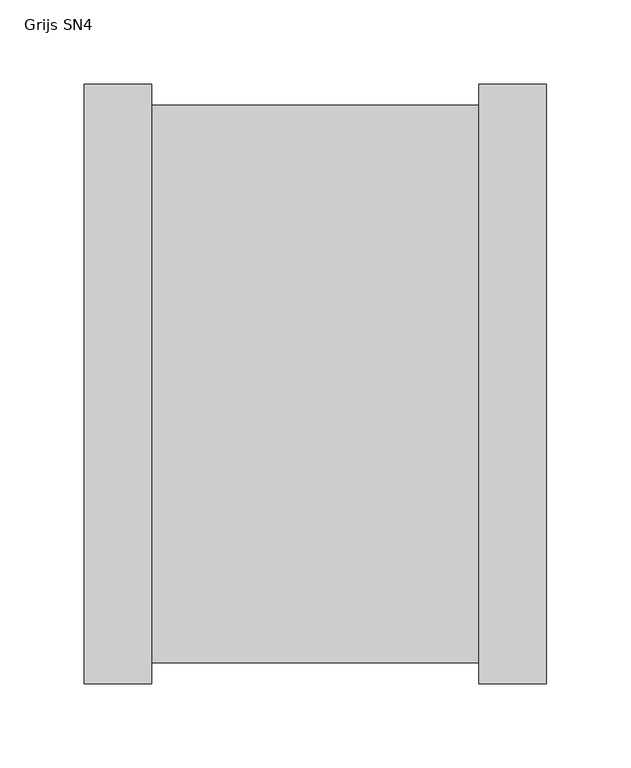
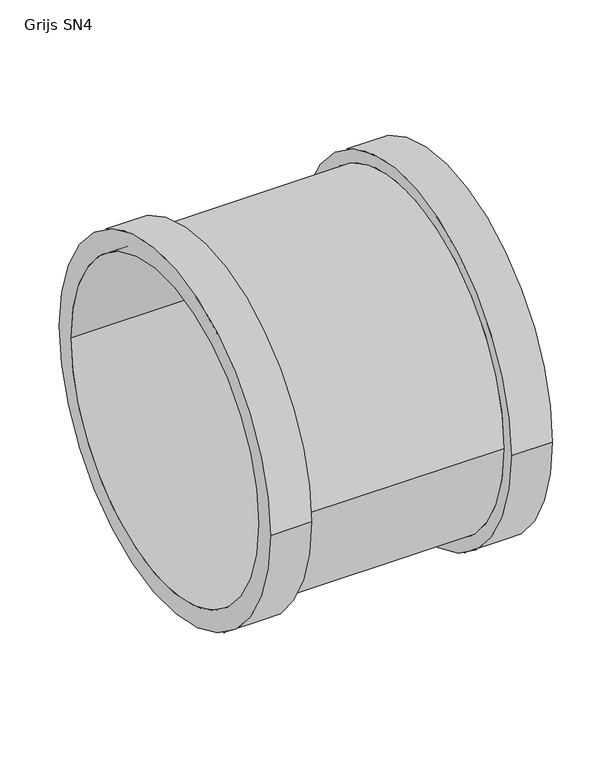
"""IFC4 building model written with IfcOpenShell, lengths in millimetres: pipe fitting geometry, NLRS_52_PIF_UN_SN4 SN8 steekmof 2MV_Dyka : Grijs SN4."""

import ifcopenshell
import ifcopenshell.guid

model = None  # the IFC model being written
_history = None  # IfcOwnerHistory: only IFC2X3 demands one
_inside = {}  # id of a spatial element -> (the spatial element, [elements in it])
_under = {}  # id of a project, library or spatial element -> (it, [spatial elements below it])
_declared = {}  # id of a project -> (the project, [libraries it declares])
_typed = {}  # id of a type object -> (the type object, [elements of that type])
_made_of = {}  # id of a material, layer set ... -> (it, [elements and type objects made of it])


def new_model(schema):
    """Start an empty IFC model of exactly this schema.

    Asked for "IFC4X3", IfcOpenShell would pick the latest addendum, in which some entities
    have other attributes; the version numbers below select the first issue.
    IFC2X3 requires an IfcOwnerHistory on every rooted entity: one is made here for all.
    """
    global model, _history
    if schema == "IFC4X3":
        model = ifcopenshell.file(schema_version=(4, 3, 0, 0))
    else:
        model = ifcopenshell.file(schema=schema)
    _inside.clear()
    _under.clear()
    _declared.clear()
    _typed.clear()
    _made_of.clear()
    _history = None
    if model.schema == "IFC2X3":
        org = make("IfcOrganization", Name="unknown")
        user = make(
            "IfcPersonAndOrganization",
            ThePerson=make("IfcPerson", FamilyName="unknown"),
            TheOrganization=org,
        )
        app = make(
            "IfcApplication",
            ApplicationDeveloper=org,
            Version="unknown",
            ApplicationFullName="unknown",
            ApplicationIdentifier="unknown",
        )
        _history = make(
            "IfcOwnerHistory",
            OwningUser=user,
            OwningApplication=app,
            ChangeAction="ADDED",
            CreationDate=0,
        )
    return model


def make(cls, **values):
    """One entity of the class cls with the attributes given. An attribute that is None is left unset."""
    return model.create_entity(
        cls, **{name: value for name, value in values.items() if value is not None}
    )


def rooted(cls, **values):
    """An entity with a GlobalId (a new one), such as an element, a storey or a relation."""
    return make(cls, GlobalId=ifcopenshell.guid.new(), OwnerHistory=_history, **values)


def si_unit(unit_type, name, prefix=None):
    """IfcSIUnit, for example si_unit("LENGTHUNIT", "METRE", prefix="MILLI")."""
    return make("IfcSIUnit", UnitType=unit_type, Prefix=prefix, Name=name)


def assignment(units):
    """IfcUnitAssignment: the units of a project."""
    return None if units is None else make("IfcUnitAssignment", Units=units)


def point(xyz):
    """IfcCartesianPoint."""
    return None if xyz is None else make("IfcCartesianPoint", Coordinates=xyz)


def direction(xyz):
    """IfcDirection."""
    return None if xyz is None else make("IfcDirection", DirectionRatios=xyz)


def frame(location, z_axis=None, x_axis=None):
    """IfcAxis2Placement3D, a coordinate frame: its origin and axes. An axis left out is left unset."""
    return make(
        "IfcAxis2Placement3D",
        Location=point(location),
        Axis=direction(z_axis),
        RefDirection=direction(x_axis),
    )


def origin():
    """The frame at (0, 0, 0) with its axes left unset."""
    return frame((0.0, 0.0, 0.0))


def place(relative_to, where):
    """IfcLocalPlacement: puts the frame where relative to a parent placement (None: the world)."""
    return make(
        "IfcLocalPlacement", PlacementRelTo=relative_to, RelativePlacement=where
    )


def context(
    kind, dimensions, precision=None, world=None, true_north=None, identifier=None
):
    """IfcGeometricRepresentationContext, for example the 3D "Model" context."""
    return make(
        "IfcGeometricRepresentationContext",
        ContextIdentifier=identifier,
        ContextType=kind,
        CoordinateSpaceDimension=dimensions,
        Precision=precision,
        WorldCoordinateSystem=world,
        TrueNorth=true_north,
    )


def project(units=None, contexts=None):
    """IfcProject with its units and contexts."""
    return rooted(
        "IfcProject",
        Name="project",
        RepresentationContexts=contexts,
        UnitsInContext=assignment(units),
    )


def spatial(cls, under=None, at=None, **own):
    """A site, building, storey or space (cls), placed at a placement, below another one or the project."""
    s = rooted(cls, ObjectPlacement=at, **own)
    if under is not None:
        _under.setdefault(under.id(), (under, []))[1].append(s)
    return s


def polyline(points):
    """IfcPolyline through the points."""
    return make("IfcPolyline", Points=[point(p) for p in points])


def circle_curve(where, radius):
    """IfcCircle in the frame where."""
    return make("IfcCircle", Position=where, Radius=radius)


def shape(context_of_items, identifier, shape_type, items):
    """IfcShapeRepresentation: the items that make up one representation, for example the "Body"."""
    return make(
        "IfcShapeRepresentation",
        ContextOfItems=context_of_items,
        RepresentationIdentifier=identifier,
        RepresentationType=shape_type,
        Items=items,
    )


def source(mapping_origin, context_of_items, identifier, shape_type, items):
    """IfcRepresentationMap: a shape defined once, which mapped items show again and again."""
    return make(
        "IfcRepresentationMap",
        MappingOrigin=mapping_origin,
        MappedRepresentation=shape(context_of_items, identifier, shape_type, items),
    )


def transform(
    local_origin,
    x_axis=None,
    y_axis=None,
    z_axis=None,
    scale=None,
    scale2=None,
    scale3=None,
    uniform=True,
):
    """IfcCartesianTransformationOperator3D, or its non-uniform kind. x_axis, y_axis, z_axis: its Axis1, 2, 3."""
    if uniform:
        return make(
            "IfcCartesianTransformationOperator3D",
            Axis1=direction(x_axis),
            Axis2=direction(y_axis),
            LocalOrigin=point(local_origin),
            Scale=scale,
            Axis3=direction(z_axis),
        )
    return make(
        "IfcCartesianTransformationOperator3DnonUniform",
        Axis1=direction(x_axis),
        Axis2=direction(y_axis),
        LocalOrigin=point(local_origin),
        Scale=scale,
        Axis3=direction(z_axis),
        Scale2=scale2,
        Scale3=scale3,
    )


def mapped(mapping_source, mapping_target):
    """IfcMappedItem: shows the shape of a source again, moved by a transform."""
    return make(
        "IfcMappedItem", MappingSource=mapping_source, MappingTarget=mapping_target
    )


def made_of(thing, what):
    """Note that an element or type object is made of a material, layer set ...; save() writes the relation."""
    if what is not None:
        _made_of.setdefault(what.id(), (what, []))[1].append(thing)
    return thing


def element(
    cls,
    number,
    at=None,
    inside=None,
    cuts=None,
    type_object=None,
    material=None,
    context=None,
    identifier="Body",
    shape_type=None,
    held_by="IfcProductDefinitionShape",
    body=None,
    shapes=None,
    **own,
):
    """One element of the class cls, such as IfcWall. Its Tag is "e" and its number.

    at: its placement. inside: the storey or other place that contains it. cuts: it is an
    opening in that element (IfcRelVoidsElement). A single representation is given by context,
    identifier, shape_type and body (its items); several are given by shapes. held_by: the class
    of the entity that holds the representations. save() writes the other relations.
    """
    e = rooted(cls, Tag="e%d" % number, ObjectPlacement=at, **own)
    if body is not None:
        shapes = [shape(context, identifier, shape_type, body)]
    if shapes is not None:
        e.Representation = make(held_by, Representations=shapes)
    if inside is not None:
        _inside.setdefault(inside.id(), (inside, []))[1].append(e)
    if cuts is not None:
        rooted(
            "IfcRelVoidsElement", RelatingBuildingElement=cuts, RelatedOpeningElement=e
        )
    if type_object is not None:
        _typed.setdefault(type_object.id(), (type_object, []))[1].append(e)
    return made_of(e, material)


def aggregate(whole, parts):
    """IfcRelAggregates: a whole, such as a stair, and the parts it consists of."""
    return rooted("IfcRelAggregates", RelatingObject=whole, RelatedObjects=parts)


def save(model, path):
    """Write the relations noted so far, then the file.

    IfcRelAggregates (storeys below a building ...), IfcRelContainedInSpatialStructure (elements
    in a storey), IfcRelDefinesByType, IfcRelAssociatesMaterial and IfcRelDeclares: one each for
    every whole, place, type object, material and project.
    """
    for whole, parts in _under.values():
        aggregate(whole, parts)
    for where, things in _inside.values():
        rooted(
            "IfcRelContainedInSpatialStructure",
            RelatedElements=things,
            RelatingStructure=where,
        )
    for kind, things in _typed.values():
        rooted("IfcRelDefinesByType", RelatedObjects=things, RelatingType=kind)
    for what, things in _made_of.values():
        rooted("IfcRelAssociatesMaterial", RelatedObjects=things, RelatingMaterial=what)
    for by, libraries in _declared.values():
        rooted("IfcRelDeclares", RelatingContext=by, RelatedDefinitions=libraries)
    model.write(path)


def plane_surface(at):
    """IfcPlane: the flat surface through the origin of the frame at, square to its z axis."""
    return make("IfcPlane", Position=at)


def cylinder_surface(at, radius):
    """IfcCylindricalSurface: all points at the distance radius from the z axis of the frame at."""
    return make("IfcCylindricalSurface", Position=at, Radius=radius)


def revolved_surface(curve, axis_point, axis_direction):
    """IfcSurfaceOfRevolution: the curve turned about the line through axis_point along axis_direction."""
    return make(
        "IfcSurfaceOfRevolution",
        SweptCurve=make("IfcArbitraryOpenProfileDef", ProfileType="CURVE", Curve=curve),
        AxisPosition=make("IfcAxis1Placement", Location=point(axis_point), Axis=direction(axis_direction)),
    )


def advanced_brep(points, edges, surfaces, faces):
    """IfcAdvancedBrep: a solid bounded by faces that lie on surfaces and meet in shared edges.

    An edge is (start, end): straight between two places in points (the first is 0);
    or (start, end, curve); or (start, end, curve, False) where it runs against its curve.
    A face is (place in surfaces, loops), or (place, loops, False) where it looks against
    its surface's normal. A loop lists edges by number (the first is 1), with a minus sign
    where the edge is run from its end to its start. The first loop is the outer one.
    """
    corners = [point(p) for p in points]
    vertices = [make("IfcVertexPoint", VertexGeometry=c) for c in corners]
    made = []
    for start, end, *more in edges:
        made.append(
            make(
                "IfcEdgeCurve",
                EdgeStart=vertices[start],
                EdgeEnd=vertices[end],
                EdgeGeometry=more[0] if more else make("IfcPolyline", Points=[corners[start], corners[end]]),
                SameSense=more[1] if len(more) > 1 else True,
            )
        )
    hull = []
    for where, loops, *sense in faces:
        bounds = []
        for j, loop in enumerate(loops):
            ring = [make("IfcOrientedEdge", EdgeElement=made[abs(k) - 1], Orientation=k > 0) for k in loop]
            bounds.append(
                make(
                    "IfcFaceOuterBound" if j == 0 else "IfcFaceBound",
                    Bound=make("IfcEdgeLoop", EdgeList=ring),
                    Orientation=True,
                )
            )
        hull.append(make("IfcAdvancedFace", Bounds=bounds, FaceSurface=surfaces[where], SameSense=sense[0] if sense else True))
    return make("IfcAdvancedBrep", Outer=make("IfcClosedShell", CfsFaces=hull))


def grijs_sn4_e6528fc4(model_context):
    return source(origin(), model_context, "Body", "AdvancedBrep", [
        advanced_brep(
        [(97.0, -177.5, 0.0), (97.0, 177.5, 0.0), (97.0, -165.2, 0.0), (97.0, 165.2, 0.0), (137.0, -177.5, 0.0), (137.0, 177.5, 0.0), (137.0, -157.5, 0.0), (137.0, 157.5, 0.0), (97.0, -157.5, 0.0), (97.0, 157.5, 0.0), (-137.0, -177.5, 0.0), (-137.0, 177.5, 0.0), (-137.0, -157.5, 0.0), (-137.0, 157.5, 0.0), (-97.0, 157.5, 0.0), (-97.0, -157.5, 0.0), (-97.0, -165.2, 0.0), (-97.0, 165.2, 0.0), (-97.0, -177.5, 0.0), (-97.0, 177.5, 0.0)],
        [
            (0, 1, circle_curve(frame((97.0, 0.0, 0.0), z_axis=(-1.0, 0.0, 0.0), x_axis=(0.0, 1.0, 0.0)), 177.5)),
            (1, 0, circle_curve(frame((97.0, 0.0, 0.0), z_axis=(-1.0, 0.0, 0.0), x_axis=(0.0, 1.0, 0.0)), 177.5)),
            (2, 3, circle_curve(frame((97.0, 0.0, 0.0), z_axis=(1.0, 0.0, 0.0), x_axis=(0.0, 1.0, 0.0)), 165.2)),
            (3, 2, circle_curve(frame((97.0, 0.0, 0.0), z_axis=(1.0, 0.0, 0.0), x_axis=(0.0, 1.0, 0.0)), 165.2)),
            (4, 5, circle_curve(frame((137.0, 0.0, 0.0), z_axis=(1.0, 0.0, 0.0), x_axis=(0.0, 1.0, 0.0)), 177.5)),
            (5, 4, circle_curve(frame((137.0, 0.0, 0.0), z_axis=(1.0, 0.0, 0.0), x_axis=(0.0, 1.0, 0.0)), 177.5)),
            (6, 7, circle_curve(frame((137.0, 0.0, 0.0), z_axis=(-1.0, 0.0, 0.0), x_axis=(0.0, 1.0, 0.0)), 157.5)),
            (7, 6, circle_curve(frame((137.0, 0.0, 0.0), z_axis=(-1.0, 0.0, 0.0), x_axis=(0.0, 1.0, 0.0)), 157.5)),
            (6, 8),
            (8, 9, circle_curve(frame((97.0, 0.0, 0.0), z_axis=(-1.0, 0.0, 0.0), x_axis=(0.0, 1.0, 0.0)), 157.5)),
            (9, 7),
            (9, 8, circle_curve(frame((97.0, 0.0, 0.0), z_axis=(-1.0, 0.0, 0.0), x_axis=(0.0, 1.0, 0.0)), 157.5)),
            (1, 5),
            (4, 0),
            (10, 11, circle_curve(frame((-137.0, 0.0, 0.0), z_axis=(-1.0, 0.0, 0.0), x_axis=(0.0, 1.0, 0.0)), 177.5)),
            (11, 10, circle_curve(frame((-137.0, 0.0, 0.0), z_axis=(-1.0, 0.0, 0.0), x_axis=(0.0, 1.0, 0.0)), 177.5)),
            (12, 13, circle_curve(frame((-137.0, 0.0, 0.0), z_axis=(1.0, 0.0, 0.0), x_axis=(0.0, 1.0, 0.0)), 157.5)),
            (13, 12, circle_curve(frame((-137.0, 0.0, 0.0), z_axis=(1.0, 0.0, 0.0), x_axis=(0.0, 1.0, 0.0)), 157.5)),
            (13, 14),
            (14, 9),
            (8, 15),
            (15, 12),
            (2, 16),
            (16, 17, circle_curve(frame((-97.0, 0.0, 0.0), z_axis=(1.0, 0.0, 0.0), x_axis=(0.0, 1.0, 0.0)), 165.2)),
            (17, 3),
            (17, 16, circle_curve(frame((-97.0, 0.0, 0.0), z_axis=(1.0, 0.0, 0.0), x_axis=(0.0, 1.0, 0.0)), 165.2)),
            (18, 19, circle_curve(frame((-97.0, 0.0, 0.0), z_axis=(1.0, 0.0, 0.0), x_axis=(0.0, 1.0, 0.0)), 177.5)),
            (19, 18, circle_curve(frame((-97.0, 0.0, 0.0), z_axis=(1.0, 0.0, 0.0), x_axis=(0.0, 1.0, 0.0)), 177.5)),
            (18, 10),
            (11, 19),
        ],
        [
            plane_surface(frame((97.0, 157.5, 0.0), z_axis=(-1.0, 0.0, 0.0), x_axis=(0.0, 0.0, 1.0))),
            plane_surface(frame((137.0, 157.5, 0.0), z_axis=(1.0, 0.0, 0.0), x_axis=(0.0, 0.0, -1.0))),
            revolved_surface(polyline([(97.0, 157.5, 0.0), (137.0, 157.5, 0.0)]), (97.0, 0.0, 0.0), (-1.0, 0.0, 0.0)),
            cylinder_surface(frame((0.0, 0.0, 0.0), z_axis=(1.0, 0.0, 0.0), x_axis=(0.0, 1.0, 0.0)), 177.5),
            plane_surface(frame((-137.0, 157.5, 0.0), z_axis=(-1.0, 0.0, 0.0), x_axis=(0.0, 0.0, 1.0))),
            revolved_surface(polyline([(-137.0, 157.5, 0.0), (97.0, 157.5, 0.0)]), (-137.0, 0.0, 0.0), (-1.0, 0.0, 0.0)),
            cylinder_surface(frame((0.0, 0.0, 0.0), z_axis=(1.0, 0.0, 0.0), x_axis=(0.0, 1.0, 0.0)), 165.2),
            plane_surface(frame((-97.0, 157.5, 0.0), z_axis=(1.0, 0.0, 0.0), x_axis=(0.0, 0.0, -1.0))),
        ],
        [
            (0, [[1, 2], [3, 4]]),
            (1, [[5, 6], [7, 8]]),
            (2, [[-7, 9, 10, 11]]),
            (2, [[-8, -11, 12, -9]]),
            (3, [[-2, 13, -5, 14]]),
            (3, [[-1, -14, -6, -13]]),
            (4, [[15, 16], [17, 18]]),
            (5, [[-18, 19, 20, -10, 21, 22]]),
            (5, [[-17, -22, -21, -12, -20, -19]]),
            (6, [[-3, 23, 24, 25]]),
            (6, [[-4, -25, 26, -23]]),
            (7, [[27, 28], [-24, -26]]),
            (3, [[-27, 29, -16, 30]]),
            (3, [[-28, -30, -15, -29]]),
        ],
    ),
    ])


if __name__ == "__main__":
    model = new_model("IFC4")
    model_context = context("Model", 3, world=origin())
    ifc_project = project(units=[si_unit("LENGTHUNIT", "METRE", prefix="MILLI")], contexts=[model_context])
    site = spatial("IfcSite", under=ifc_project)
    building = spatial("IfcBuilding", under=site)
    placement = place(None, origin())
    grijs_sn4_shape = grijs_sn4_e6528fc4(model_context)
    element("IfcPipeFitting", 1, ObjectType="NLRS_52_PIF_UN_SN4 SN8 steekmof 2MV_Dyka : Grijs SN4", at=placement, inside=building, context=model_context, shape_type="MappedRepresentation", body=[
        mapped(grijs_sn4_shape, transform((0.0, 0.0, 0.0), x_axis=(1.0, 0.0, 0.0), y_axis=(0.0, 1.0, 0.0), z_axis=(0.0, 0.0, 1.0))),
    ])
    save(model, "model.ifc")
